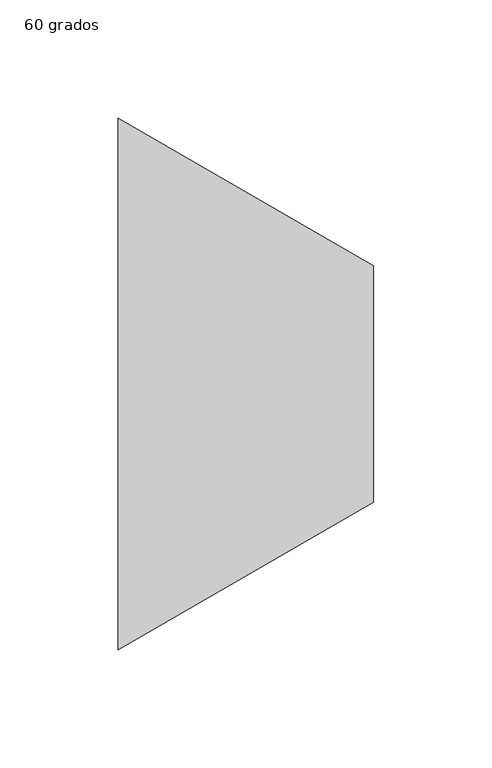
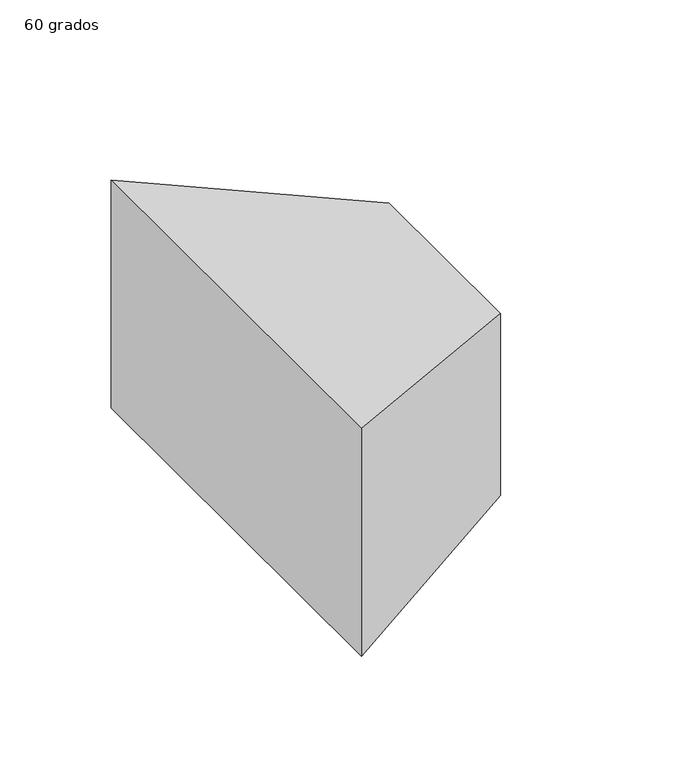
"""IFC4 building model written with IfcOpenShell, lengths in millimetres: duct fitting geometry, M_Transición rectangular - Ángulo : 60 grados."""

from ifc_helpers import new_model, si_unit, origin, place, context, project, spatial, faceted_brep, source, transform, mapped, element, save


def duct_fitting_60_grados_18a68ce1(model_context):
    return source(origin(), model_context, "Body", "Brep", [
        faceted_brep([(108.2531755, -50.0, 50.0), (108.2531755, -50.0, -50.0), (108.2531755, 50.0, -50.0), (108.2531755, 50.0, 50.0), (0.0, -112.5, 62.5), (0.0, 112.5, 62.5), (0.0, 112.5, -62.5), (0.0, -112.5, -62.5)], [[[0, 1, 2, 3]], [[4, 5, 6, 7]], [[4, 7, 1, 0]], [[7, 6, 2, 1]], [[6, 5, 3, 2]], [[5, 4, 0, 3]]]),
    ])


if __name__ == "__main__":
    model = new_model("IFC4")
    model_context = context("Model", 3, world=origin())
    ifc_project = project(units=[si_unit("LENGTHUNIT", "METRE", prefix="MILLI")], contexts=[model_context])
    site = spatial("IfcSite", under=ifc_project)
    building = spatial("IfcBuilding", under=site)
    placement = place(None, origin())
    duct_fitting_60_grados_shape = duct_fitting_60_grados_18a68ce1(model_context)
    element("IfcDuctFitting", 1, ObjectType="M_Transición rectangular - Ángulo : 60 grados", at=placement, inside=building, context=model_context, shape_type="MappedRepresentation", body=[
        mapped(duct_fitting_60_grados_shape, transform((0.0, 0.0, 0.0), x_axis=(1.0, 0.0, 0.0), y_axis=(0.0, 1.0, 0.0), z_axis=(0.0, 0.0, 1.0))),
    ])
    save(model, "model.ifc")
